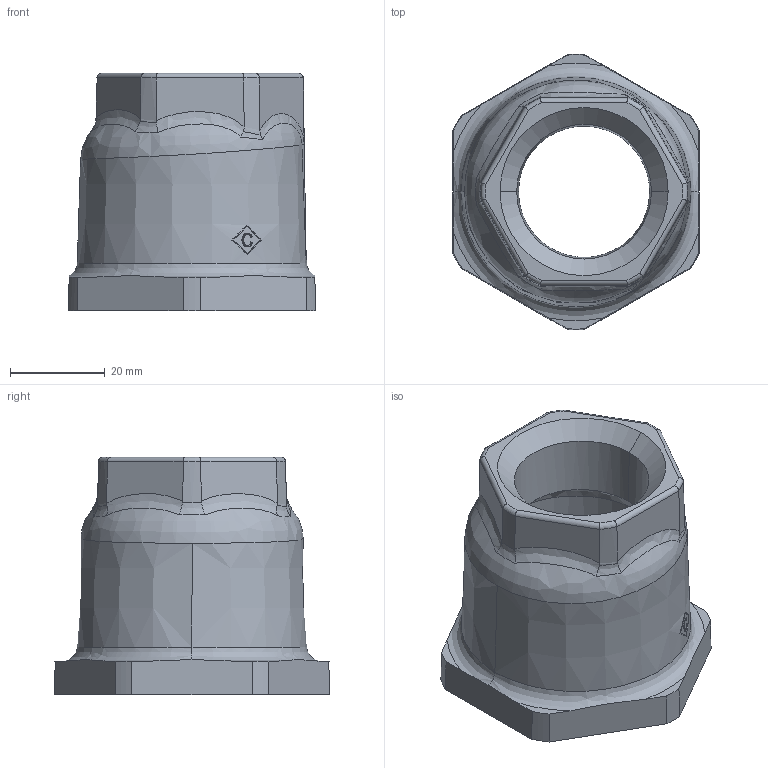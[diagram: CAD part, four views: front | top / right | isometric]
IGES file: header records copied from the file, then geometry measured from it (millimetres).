
Global section: file name: No Iges File Name specified; native system: AutoDesk Inventor R12.0; preprocessor: AutoDesk Inventor Iges Exporter R12.0; date: 20090917.084322; units: millimetre
Bounding box: 52 x 57.99 x 50 mm (x, y, z)
Volume: 40266.6 mm3; surface area: 14943.7 mm2
Topology: 1 solids, 1 shells, 94 faces, 257 edges, 168 vertices
Faces by surface type: plane 31, bspline 26, cone 17, revolution 8, torus 6, cylinder 6
